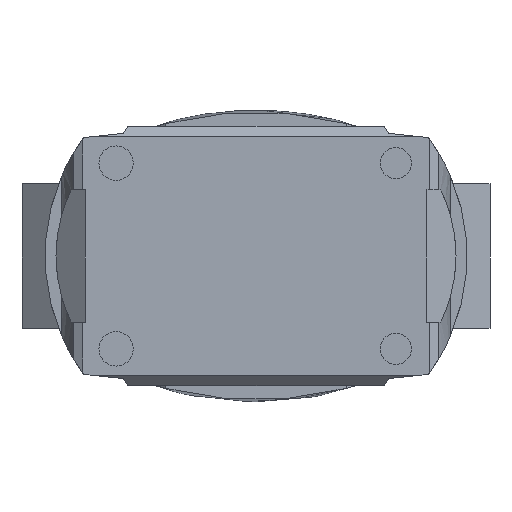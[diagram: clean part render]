
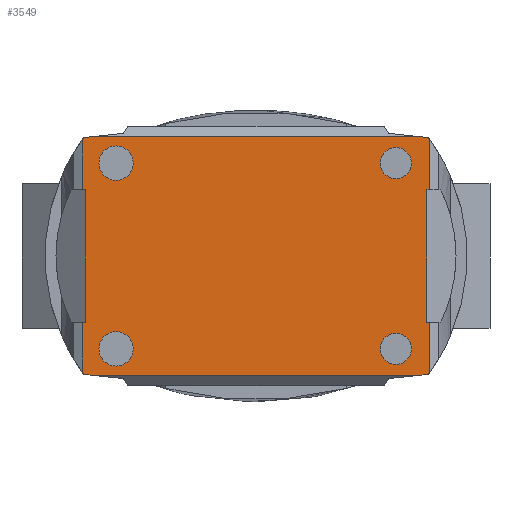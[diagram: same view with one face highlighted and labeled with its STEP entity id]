
A CAD part, front view. The second image highlights one B-rep face of the part: STEP entity #3549.
In plain terms, the highlighted planar face has unit normal (0, -1, 0).
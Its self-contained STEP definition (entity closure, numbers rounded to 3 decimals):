
#31=LINE('',#4689,#201);
#35=LINE('',#4698,#205);
#38=LINE('',#4823,#208);
#43=LINE('',#4939,#213);
#45=LINE('',#4970,#215);
#48=LINE('',#4976,#218);
#57=LINE('',#5026,#227);
#60=LINE('',#5035,#230);
#77=LINE('',#5214,#247);
#80=LINE('',#5223,#250);
#92=LINE('',#5369,#262);
#96=LINE('',#5377,#266);
#97=LINE('',#5383,#267);
#100=LINE('',#5387,#270);
#101=LINE('',#5389,#271);
#102=LINE('',#5390,#272);
#201=VECTOR('',#3857,1000.);
#205=VECTOR('',#3863,1000.);
#208=VECTOR('',#3878,1000.);
#213=VECTOR('',#3891,1000.);
#215=VECTOR('',#3903,1000.);
#218=VECTOR('',#3908,1000.);
#227=VECTOR('',#3963,1000.);
#230=VECTOR('',#3970,1000.);
#247=VECTOR('',#4007,1000.);
#250=VECTOR('',#4014,1000.);
#262=VECTOR('',#4044,1000.);
#266=VECTOR('',#4052,1000.);
#267=VECTOR('',#4055,1000.);
#270=VECTOR('',#4060,1000.);
#271=VECTOR('',#4063,1000.);
#272=VECTOR('',#4064,1000.);
#443=PLANE('',#3739);
#491=CIRCLE('',#3692,14.983);
#493=CIRCLE('',#3696,14.983);
#495=CIRCLE('',#3700,13.63);
#497=CIRCLE('',#3704,13.63);
#502=CIRCLE('',#3718,175.235);
#504=CIRCLE('',#3720,175.235);
#506=CIRCLE('',#3729,175.268);
#508=CIRCLE('',#3731,175.268);
#732=ORIENTED_EDGE('',*,*,#1374,.T.);
#733=ORIENTED_EDGE('',*,*,#1372,.F.);
#734=ORIENTED_EDGE('',*,*,#1370,.F.);
#735=ORIENTED_EDGE('',*,*,#1368,.F.);
#736=ORIENTED_EDGE('',*,*,#1328,.F.);
#737=ORIENTED_EDGE('',*,*,#1341,.F.);
#738=ORIENTED_EDGE('',*,*,#1324,.F.);
#739=ORIENTED_EDGE('',*,*,#1461,.T.);
#740=ORIENTED_EDGE('',*,*,#1408,.T.);
#741=ORIENTED_EDGE('',*,*,#1385,.F.);
#742=ORIENTED_EDGE('',*,*,#1452,.T.);
#743=ORIENTED_EDGE('',*,*,#1427,.F.);
#744=ORIENTED_EDGE('',*,*,#1442,.T.);
#745=ORIENTED_EDGE('',*,*,#1458,.F.);
#746=ORIENTED_EDGE('',*,*,#1352,.F.);
#747=ORIENTED_EDGE('',*,*,#1365,.F.);
#748=ORIENTED_EDGE('',*,*,#1362,.F.);
#749=ORIENTED_EDGE('',*,*,#1462,.F.);
#750=ORIENTED_EDGE('',*,*,#1436,.T.);
#751=ORIENTED_EDGE('',*,*,#1423,.F.);
#752=ORIENTED_EDGE('',*,*,#1456,.F.);
#753=ORIENTED_EDGE('',*,*,#1389,.F.);
#754=ORIENTED_EDGE('',*,*,#1402,.T.);
#755=ORIENTED_EDGE('',*,*,#1463,.T.);
#1324=EDGE_CURVE('',#1710,#1711,#31,.T.);
#1328=EDGE_CURVE('',#1714,#1715,#35,.T.);
#1341=EDGE_CURVE('',#1711,#1714,#38,.T.);
#1352=EDGE_CURVE('',#1734,#1735,#43,.T.);
#1362=EDGE_CURVE('',#1742,#1743,#45,.T.);
#1365=EDGE_CURVE('',#1743,#1734,#48,.T.);
#1368=EDGE_CURVE('',#1746,#1746,#491,.T.);
#1370=EDGE_CURVE('',#1748,#1748,#493,.T.);
#1372=EDGE_CURVE('',#1750,#1750,#495,.T.);
#1374=EDGE_CURVE('',#1752,#1752,#497,.T.);
#1385=EDGE_CURVE('',#1762,#1763,#57,.T.);
#1389=EDGE_CURVE('',#1766,#1767,#60,.T.);
#1402=EDGE_CURVE('',#1766,#1778,#502,.T.);
#1408=EDGE_CURVE('',#1783,#1763,#504,.T.);
#1423=EDGE_CURVE('',#1796,#1797,#77,.T.);
#1427=EDGE_CURVE('',#1800,#1801,#80,.T.);
#1436=EDGE_CURVE('',#1808,#1797,#506,.T.);
#1442=EDGE_CURVE('',#1800,#1813,#508,.T.);
#1452=EDGE_CURVE('',#1762,#1801,#92,.T.);
#1456=EDGE_CURVE('',#1767,#1796,#96,.T.);
#1458=EDGE_CURVE('',#1735,#1813,#97,.T.);
#1461=EDGE_CURVE('',#1710,#1783,#100,.T.);
#1462=EDGE_CURVE('',#1808,#1742,#101,.T.);
#1463=EDGE_CURVE('',#1778,#1715,#102,.T.);
#1710=VERTEX_POINT('',#4688);
#1711=VERTEX_POINT('',#4690);
#1714=VERTEX_POINT('',#4697);
#1715=VERTEX_POINT('',#4699);
#1734=VERTEX_POINT('',#4938);
#1735=VERTEX_POINT('',#4940);
#1742=VERTEX_POINT('',#4969);
#1743=VERTEX_POINT('',#4971);
#1746=VERTEX_POINT('',#4983);
#1748=VERTEX_POINT('',#4989);
#1750=VERTEX_POINT('',#4995);
#1752=VERTEX_POINT('',#5001);
#1762=VERTEX_POINT('',#5025);
#1763=VERTEX_POINT('',#5027);
#1766=VERTEX_POINT('',#5034);
#1767=VERTEX_POINT('',#5036);
#1778=VERTEX_POINT('',#5092);
#1783=VERTEX_POINT('',#5152);
#1796=VERTEX_POINT('',#5213);
#1797=VERTEX_POINT('',#5215);
#1800=VERTEX_POINT('',#5222);
#1801=VERTEX_POINT('',#5224);
#1808=VERTEX_POINT('',#5286);
#1813=VERTEX_POINT('',#5348);
#2161=EDGE_LOOP('',(#732));
#2162=EDGE_LOOP('',(#733));
#2163=EDGE_LOOP('',(#734));
#2164=EDGE_LOOP('',(#735));
#2165=EDGE_LOOP('',(#736,#737,#738,#739,#740,#741,#742,#743,#744,#745,#746,
#747,#748,#749,#750,#751,#752,#753,#754,#755));
#2329=FACE_BOUND('',#2161,.T.);
#2330=FACE_BOUND('',#2162,.T.);
#2331=FACE_BOUND('',#2163,.T.);
#2332=FACE_BOUND('',#2164,.T.);
#2333=FACE_BOUND('',#2165,.T.);
#3549=ADVANCED_FACE('',(#2329,#2330,#2331,#2332,#2333),#443,.T.);
#3692=AXIS2_PLACEMENT_3D('',#4982,#3916,#3917);
#3696=AXIS2_PLACEMENT_3D('',#4988,#3924,#3925);
#3700=AXIS2_PLACEMENT_3D('',#4994,#3932,#3933);
#3704=AXIS2_PLACEMENT_3D('',#5000,#3940,#3941);
#3718=AXIS2_PLACEMENT_3D('',#5093,#3985,#3986);
#3720=AXIS2_PLACEMENT_3D('',#5151,#3989,#3990);
#3729=AXIS2_PLACEMENT_3D('',#5285,#4024,#4025);
#3731=AXIS2_PLACEMENT_3D('',#5349,#4028,#4029);
#3739=AXIS2_PLACEMENT_3D('',#5388,#4061,#4062);
#3857=DIRECTION('',(-1.,0.,0.026));
#3863=DIRECTION('',(1.,0.,0.026));
#3878=DIRECTION('',(0.,0.,-1.));
#3891=DIRECTION('',(-1.,0.,-0.026));
#3903=DIRECTION('',(1.,0.,-0.026));
#3908=DIRECTION('',(0.,0.,1.));
#3916=DIRECTION('',(0.,-1.,0.));
#3917=DIRECTION('',(-1.,0.,0.));
#3924=DIRECTION('',(0.,-1.,0.));
#3925=DIRECTION('',(-1.,0.,0.));
#3932=DIRECTION('',(0.,-1.,0.));
#3933=DIRECTION('',(-1.,0.,0.));
#3940=DIRECTION('',(0.,1.,0.));
#3941=DIRECTION('',(1.,0.,0.));
#3963=DIRECTION('',(0.995,0.,-0.105));
#3970=DIRECTION('',(-0.995,0.,-0.105));
#3985=DIRECTION('',(0.,-1.,0.));
#3986=DIRECTION('',(-1.,0.,0.));
#3989=DIRECTION('',(0.,-1.,0.));
#3990=DIRECTION('',(-1.,0.,0.));
#4007=DIRECTION('',(-0.995,0.,0.105));
#4014=DIRECTION('',(0.995,0.,0.105));
#4024=DIRECTION('',(0.,-1.,0.));
#4025=DIRECTION('',(-1.,0.,0.));
#4028=DIRECTION('',(0.,-1.,0.));
#4029=DIRECTION('',(-1.,0.,0.));
#4044=DIRECTION('',(-1.,0.,0.));
#4052=DIRECTION('',(-1.,0.,0.));
#4055=DIRECTION('',(0.,0.,1.));
#4060=DIRECTION('',(0.,0.,1.));
#4061=DIRECTION('',(0.,-1.,0.));
#4062=DIRECTION('',(-1.,0.,0.));
#4063=DIRECTION('',(0.,0.,1.));
#4064=DIRECTION('',(0.,0.,1.));
#4688=CARTESIAN_POINT('',(150.976,-303.9,57.815));
#4689=CARTESIAN_POINT('',(-145.331,-303.9,65.574));
#4690=CARTESIAN_POINT('',(149.009,-303.9,57.866));
#4697=CARTESIAN_POINT('',(149.009,-303.9,-57.866));
#4698=CARTESIAN_POINT('',(-153.181,-303.9,-65.78));
#4699=CARTESIAN_POINT('',(150.976,-303.9,-57.815));
#4823=CARTESIAN_POINT('',(149.009,-303.9,-150.));
#4938=CARTESIAN_POINT('',(-149.009,-303.9,57.866));
#4939=CARTESIAN_POINT('',(-156.414,-303.9,57.673));
#4940=CARTESIAN_POINT('',(-150.976,-303.9,57.815));
#4969=CARTESIAN_POINT('',(-150.976,-303.9,-57.815));
#4970=CARTESIAN_POINT('',(-148.564,-303.9,-57.878));
#4971=CARTESIAN_POINT('',(-149.009,-303.9,-57.866));
#4976=CARTESIAN_POINT('',(-149.009,-303.9,-150.));
#4982=CARTESIAN_POINT('',(-122.,-303.9,81.));
#4983=CARTESIAN_POINT('',(-136.983,-303.9,81.));
#4988=CARTESIAN_POINT('',(-122.,-303.9,-81.));
#4989=CARTESIAN_POINT('',(-136.983,-303.9,-81.));
#4994=CARTESIAN_POINT('',(122.,-303.9,-81.));
#4995=CARTESIAN_POINT('',(108.37,-303.9,-81.));
#5000=CARTESIAN_POINT('',(122.,-303.9,81.));
#5001=CARTESIAN_POINT('',(135.63,-303.9,81.));
#5025=CARTESIAN_POINT('',(140.004,-303.9,104.293));
#5026=CARTESIAN_POINT('',(-121.361,-303.9,131.763));
#5027=CARTESIAN_POINT('',(150.353,-303.9,103.205));
#5034=CARTESIAN_POINT('',(150.353,-303.9,-103.205));
#5035=CARTESIAN_POINT('',(-152.548,-303.9,-135.041));
#5036=CARTESIAN_POINT('',(140.004,-303.9,-104.293));
#5092=CARTESIAN_POINT('',(150.976,-303.9,-102.345));
#5093=CARTESIAN_POINT('',(8.734,-303.9,0.));
#5151=CARTESIAN_POINT('',(8.734,-303.9,0.));
#5152=CARTESIAN_POINT('',(150.976,-303.9,102.345));
#5213=CARTESIAN_POINT('',(-140.004,-303.9,-104.293));
#5214=CARTESIAN_POINT('',(-146.104,-303.9,-103.652));
#5215=CARTESIAN_POINT('',(-150.282,-303.9,-103.213));
#5222=CARTESIAN_POINT('',(-150.282,-303.9,103.213));
#5223=CARTESIAN_POINT('',(-177.291,-303.9,100.374));
#5224=CARTESIAN_POINT('',(-140.004,-303.9,104.293));
#5285=CARTESIAN_POINT('',(-8.627,-303.9,0.));
#5286=CARTESIAN_POINT('',(-150.976,-303.9,-102.254));
#5348=CARTESIAN_POINT('',(-150.976,-303.9,102.254));
#5349=CARTESIAN_POINT('',(-8.627,-303.9,0.));
#5369=CARTESIAN_POINT('',(486.589,-303.9,104.293));
#5377=CARTESIAN_POINT('',(486.589,-303.9,-104.293));
#5383=CARTESIAN_POINT('',(-150.976,-303.9,-150.));
#5387=CARTESIAN_POINT('',(150.976,-303.9,-150.));
#5388=CARTESIAN_POINT('',(-150.976,-303.9,-150.));
#5389=CARTESIAN_POINT('',(-150.976,-303.9,-150.));
#5390=CARTESIAN_POINT('',(150.976,-303.9,-150.));
